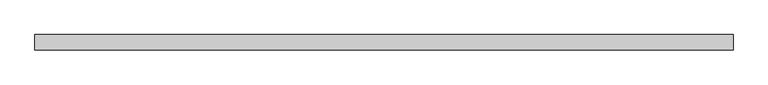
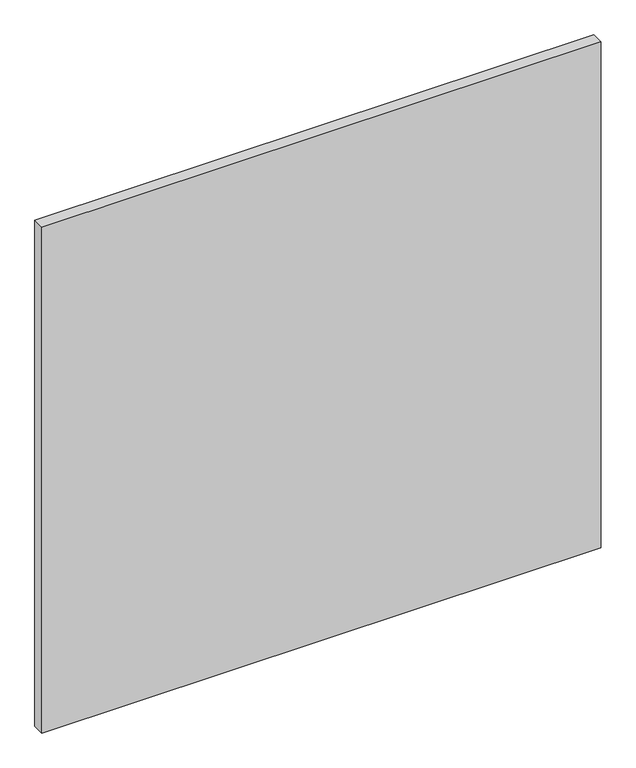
"""IFC4 building model written with IfcOpenShell, lengths in millimetres: plate geometry, システム パネル : ガラス."""

from ifc_helpers import new_model, si_unit, origin, origin_with_axes, place, context, project, spatial, polyline, outline, extrude, source, transform, mapped, element, save


def plate_38e41338(model_context):
    return source(origin(), model_context, "Body", "SweptSolid", [
        extrude(outline(polyline([(575.0000001, -49.5), (-575.0000001, -49.5), (-575.0000001, -24.5), (575.0000001, -24.5), (575.0000001, -49.5)])), origin_with_axes(), (0.0, 0.0, 1.0), 1100.0),
    ])


if __name__ == "__main__":
    model = new_model("IFC4")
    model_context = context("Model", 3, world=origin())
    ifc_project = project(units=[si_unit("LENGTHUNIT", "METRE", prefix="MILLI")], contexts=[model_context])
    site = spatial("IfcSite", under=ifc_project)
    building = spatial("IfcBuilding", under=site)
    placement = place(None, origin())
    plate_shape = plate_38e41338(model_context)
    element("IfcPlate", 1, ObjectType="システム パネル : ガラス", at=placement, inside=building, context=model_context, shape_type="MappedRepresentation", body=[
        mapped(plate_shape, transform((0.0, 0.0, 0.0), x_axis=(1.0, 0.0, 0.0), y_axis=(0.0, 1.0, 0.0), z_axis=(0.0, 0.0, 1.0))),
    ])
    save(model, "model.ifc")
